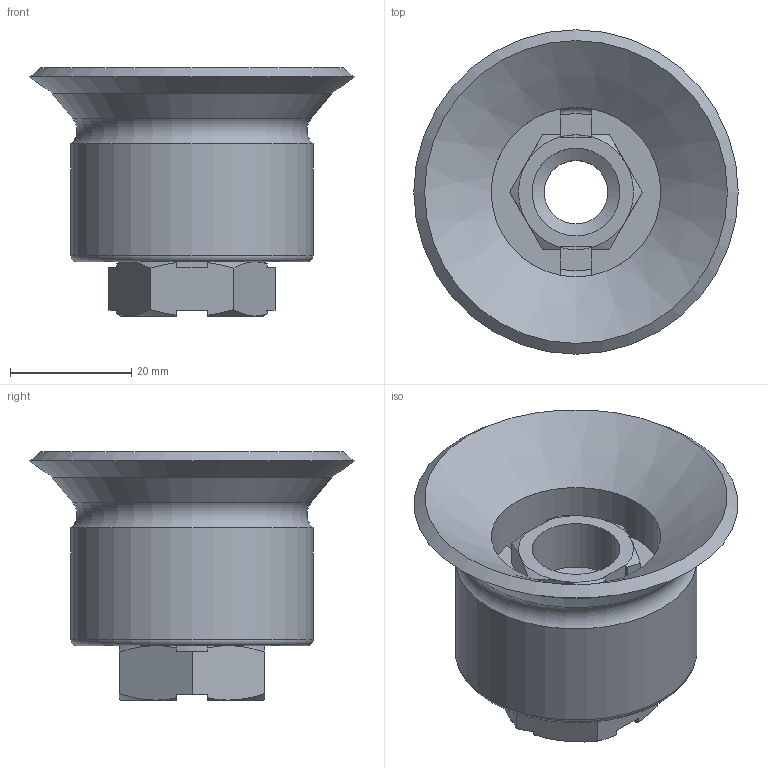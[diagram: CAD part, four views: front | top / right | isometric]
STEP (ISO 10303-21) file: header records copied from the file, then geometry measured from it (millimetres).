
FILE_DESCRIPTION(('STEP AP214'),'1');
FILE_NAME(').stp','2026-03-23T07:35:16',(' '),(' '),'Spatial InterOp 3D',' ',' ');
FILE_SCHEMA(('AUTOMOTIVE_DESIGN { 1 0 10303 214 1 1 1 1 }'));
Length unit declared in the file: millimetre
Products named in the file (7): LFK-M12-PKMG-50M; PKMG-50M-W; LFK-M12; NUT; FITTING
Assembly tree (6 placements, depth 5):
  LFK-M12-PKMG-50M
    PKMG-50M-W
    LFK-M12
      LFK-M12
        LFK-M12
          NUT
          FITTING
Bounding box: 53.58 x 53.58 x 41 mm (x, y, z)
Volume: 31384.6 mm3; surface area: 14498.7 mm2
Topology: 3 solids, 3 shells, 108 faces, 287 edges, 185 vertices
Faces by surface type: plane 54, cone 33, cylinder 18, torus 3
Full cylindrical faces by diameter (mm): 10.5 x2, 14.5 x1, 19 x1, 28 x1, 40 x1
Entity records: 4472 total; most frequent: CARTESIAN_POINT 830, ORIENTED_EDGE 540, DIRECTION 508, EDGE_CURVE 270, AXIS2_PLACEMENT_3D 188, VERTEX_POINT 182, LINE 132, VECTOR 132
